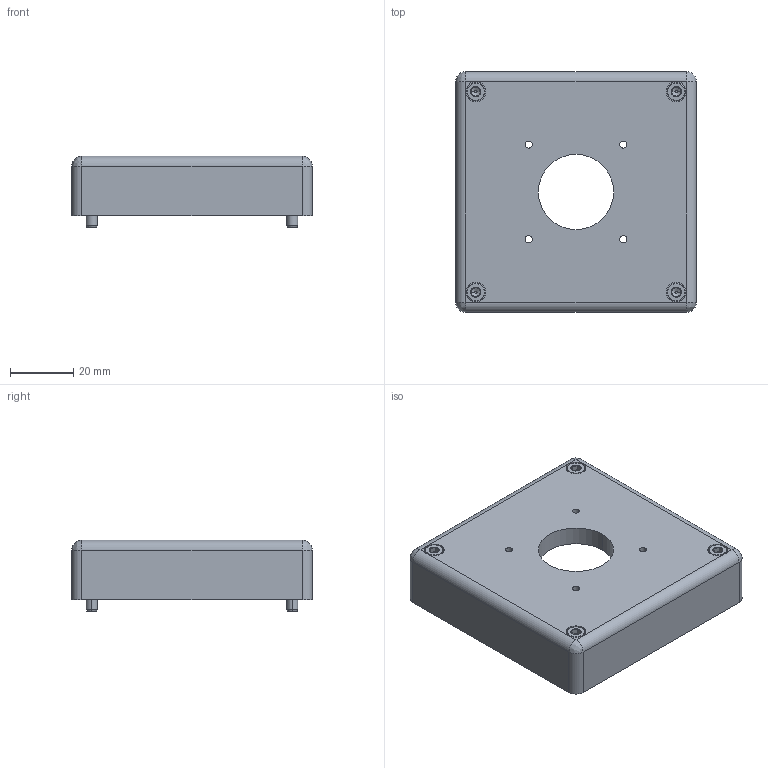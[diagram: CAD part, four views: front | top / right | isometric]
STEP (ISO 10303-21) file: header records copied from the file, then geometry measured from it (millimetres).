
FILE_DESCRIPTION (( 'STEP AP214' ), '1' );
FILE_NAME ('234-C-02.STEP', '2022-06-21T20:13:04', ( '' ), ( '' ), 'SwSTEP 2.0', 'SolidWorks 2020', '' );
FILE_SCHEMA (( 'AUTOMOTIVE_DESIGN' ));
Length unit declared in the file: millimetre
Products named in the file (1): 234-C-02
Bounding box: 76.2 x 76.2 x 22.62 mm (x, y, z)
Volume: 33952.5 mm3; surface area: 23218 mm2
Topology: 1 solids, 1 shells, 224 faces, 488 edges, 280 vertices
Faces by surface type: plane 92, cylinder 72, cone 48, bspline 12
Entity records: 7278 total; most frequent: CARTESIAN_POINT 1385, DIRECTION 1090, ORIENTED_EDGE 968, EDGE_CURVE 484, AXIS2_PLACEMENT_3D 433, VERTEX_POINT 280, EDGE_LOOP 252, ADVANCED_FACE 224
